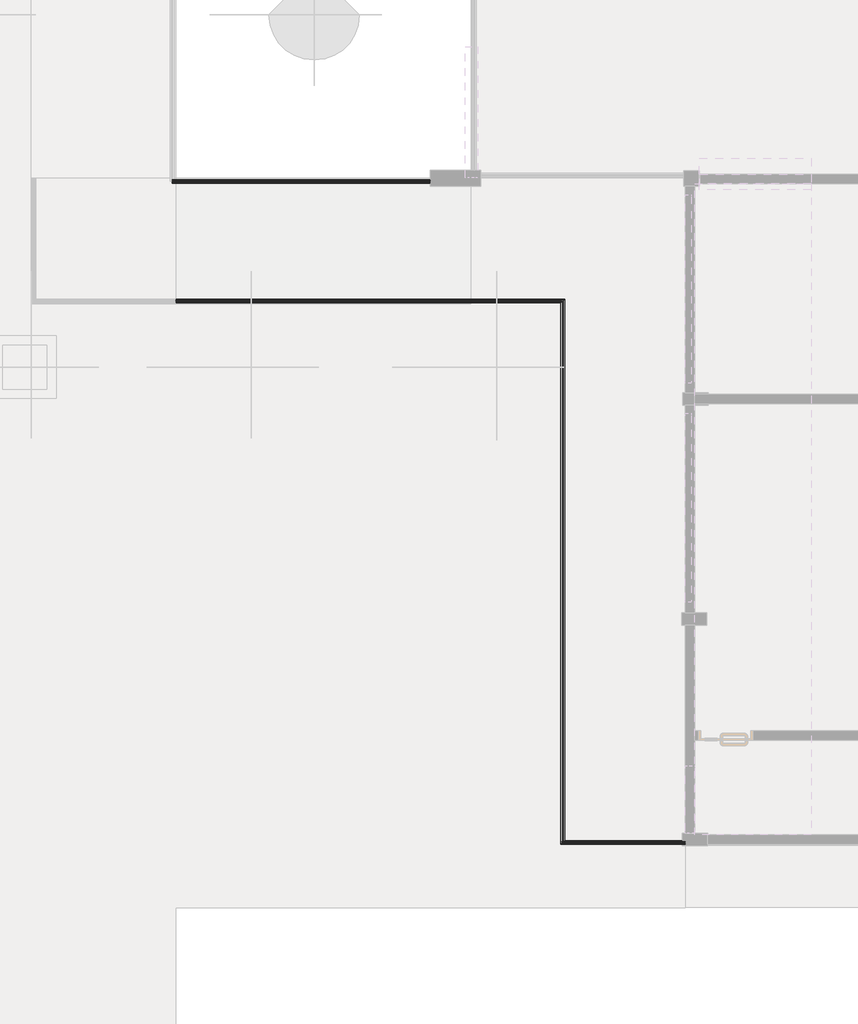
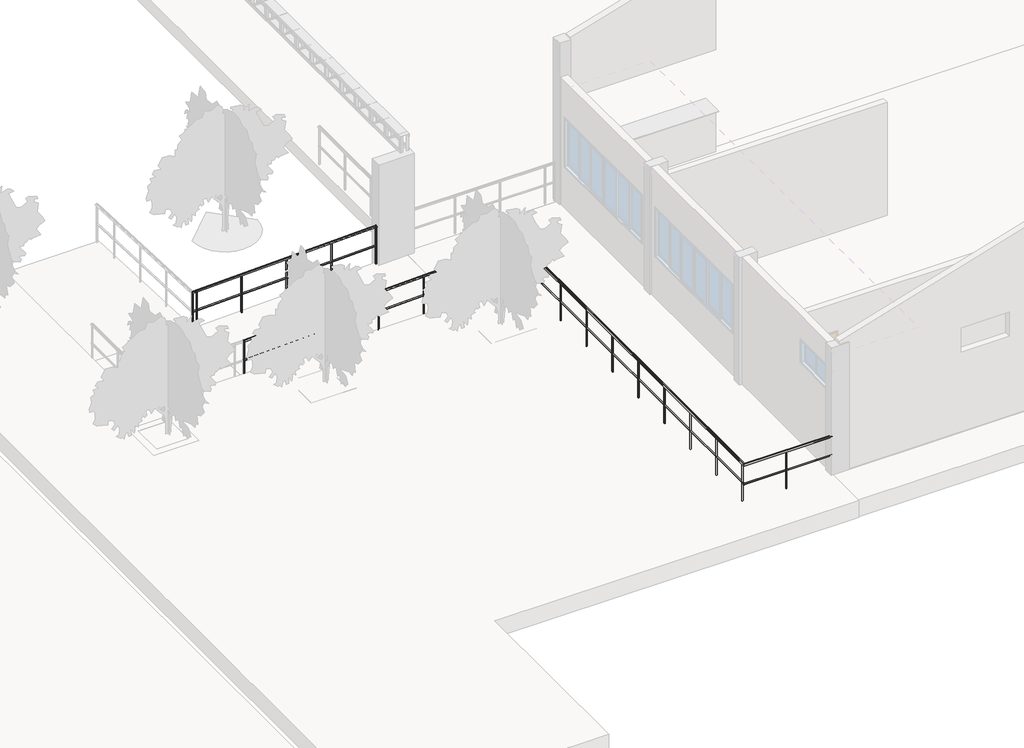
# One storey, part 8 of 12: 3 railings.
"""IFC4 building model written with IfcOpenShell, lengths in millimetres."""

from ifc_helpers import new_model, si_unit, point, frame, frame_2d, origin, place, context, project, spatial, circle_curve, ellipse_curve, trimmed, segment, composite_curve, outline, extrude, element, save
from ifc_brep_helpers import plane_surface, cylinder_surface, advanced_brep

model = new_model("IFC4")

# Units and contexts
model_context = context("Model", 3, world=origin())
ifc_project = project(units=[si_unit("LENGTHUNIT", "METRE", prefix="MILLI")], contexts=[model_context])

# Site, building, storey
site = spatial("IfcSite", under=ifc_project)
building = spatial("IfcBuilding", under=site)
storey = spatial("IfcBuildingStorey", under=building, Name="Nível 1", Elevation=0.0)

# Railings
placement = place(None, origin())
element("IfcRailing", 1, ObjectType="900 mm Tubulação", at=placement, inside=storey, context=model_context, shape_type="AdvancedBrep", body=[
    advanced_brep(
    [(-22898.5268603, 13911.1797638, 1029.989817), (-22898.5268603, 13881.1797638, 1029.989817), (-22898.5268603, 13851.1797638, 1029.989817), (-22898.5268603, 13871.1797638, 1050.0), (-22898.5268603, 13891.1797638, 1050.0), (-18198.5268603, 13911.1797638, 1179.989817), (-18198.5268603, 13891.1797638, 1200.0), (-18198.5268603, 13871.1797638, 1200.0), (-18198.5268603, 13851.1797638, 1179.989817), (-18198.5268603, 13881.1797638, 1179.989817)],
    [
        (0, 1),
        (1, 2),
        (2, 3, ellipse_curve(frame((-22898.5268603, 13871.1797638, 1029.989817), z_axis=(-1.0, 0.0, 0.0), x_axis=(0.0, 0.0, -1.0)), 20.010183, 20.0)),
        (3, 4),
        (4, 0, ellipse_curve(frame((-22898.5268603, 13891.1797638, 1029.989817), z_axis=(-1.0, 0.0, 0.0), x_axis=(0.0, 0.0, -1.0)), 20.010183, 20.0)),
        (5, 6, ellipse_curve(frame((-18198.5268603, 13891.1797638, 1179.989817), z_axis=(1.0, 0.0, 0.0), x_axis=(0.0, 0.0, -1.0)), 20.010183, 20.0)),
        (6, 7),
        (7, 8, ellipse_curve(frame((-18198.5268603, 13871.1797638, 1179.989817), z_axis=(1.0, 0.0, 0.0), x_axis=(0.0, 0.0, -1.0)), 20.010183, 20.0)),
        (8, 9),
        (9, 5),
        (0, 5),
        (9, 1),
        (8, 2),
        (7, 3),
        (6, 4),
    ],
    [
        plane_surface(frame((-22898.5268603, 13881.1797638, 1050.0), z_axis=(-1.0, 0.0, 0.0), x_axis=(0.0, 1.0, 0.0))),
        plane_surface(frame((-18198.5268603, 13881.1797638, 1200.0), z_axis=(1.0, 0.0, 0.0), x_axis=(0.0, 1.0, 0.0))),
        plane_surface(frame((-22898.5268603, 13911.1797638, 1029.989817), z_axis=(0.03189865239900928, 0.0, -0.9994911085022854), x_axis=(0.9994911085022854, 0.0, 0.03189865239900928))),
        plane_surface(frame((-22898.5268603, 13881.1797638, 1029.989817), z_axis=(0.03189865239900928, 0.0, -0.9994911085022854), x_axis=(0.9994911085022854, 0.0, 0.03189865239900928))),
        cylinder_surface(frame((-22897.8888872, 13871.1797638, 1030.0101778), z_axis=(-0.9994911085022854, 0.0, -0.0318986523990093), x_axis=(0.0, 1.0, 0.0)), 20.0),
        plane_surface(frame((-22898.5268603, 13871.1797638, 1050.0), z_axis=(-0.03189865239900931, 0.0, 0.9994911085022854), x_axis=(0.9994911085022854, 0.0, 0.03189865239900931))),
        cylinder_surface(frame((-22897.8888872, 13891.1797638, 1030.0101778), z_axis=(-0.9994911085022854, 0.0, -0.0318986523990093), x_axis=(0.0, 1.0, 0.0)), 20.0),
    ],
    [
        (0, [[1, 2, 3, 4, 5]]),
        (1, [[6, 7, 8, 9, 10]]),
        (2, [[-1, 11, -10, 12]]),
        (3, [[-2, -12, -9, 13]]),
        (4, [[-3, -13, -8, 14]]),
        (5, [[-4, -14, -7, 15]]),
        (6, [[-5, -15, -6, -11]]),
    ],
),
    advanced_brep(
    [(-22898.5268603, 13896.1797638, 1034.9923627), (-22898.5268603, 13866.1797638, 1034.9923627), (-18198.5268603, 13896.1797638, 1184.9923627), (-18198.5268603, 13866.1797638, 1184.9923627)],
    [
        (0, 1, ellipse_curve(frame((-22898.5268603, 13881.1797638, 1034.9923627), z_axis=(-1.0, 0.0, 0.0), x_axis=(0.0, 0.0, -1.0)), 15.0076373, 15.0)),
        (1, 0, ellipse_curve(frame((-22898.5268603, 13881.1797638, 1034.9923627), z_axis=(-1.0, 0.0, 0.0), x_axis=(0.0, 0.0, -1.0)), 15.0076373, 15.0)),
        (2, 3, ellipse_curve(frame((-18198.5268603, 13881.1797638, 1184.9923627), z_axis=(1.0, 0.0, 0.0), x_axis=(0.0, 0.0, -1.0)), 15.0076373, 15.0)),
        (3, 2, ellipse_curve(frame((-18198.5268603, 13881.1797638, 1184.9923627), z_axis=(1.0, 0.0, 0.0), x_axis=(0.0, 0.0, -1.0)), 15.0076373, 15.0)),
        (0, 2),
        (3, 1),
    ],
    [
        plane_surface(frame((-22898.5268603, 13881.1797638, 1050.0), z_axis=(-1.0, 0.0, 0.0), x_axis=(0.0, 1.0, 0.0))),
        plane_surface(frame((-18198.5268603, 13881.1797638, 1200.0), z_axis=(1.0, 0.0, 0.0), x_axis=(0.0, 1.0, 0.0))),
        cylinder_surface(frame((-22898.0483805, 13881.1797638, 1035.0076334), z_axis=(-0.9994911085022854, 0.0, -0.0318986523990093), x_axis=(0.0, -1.0, 0.0)), 15.0),
    ],
    [
        (0, [[1, 2]]),
        (1, [[3, 4]]),
        (2, [[-1, 5, -4, 6]]),
        (2, [[-2, -6, -3, -5]]),
    ],
),
    advanced_brep(
    [(-22898.5268603, 13896.1797638, 584.9923627), (-22898.5268603, 13866.1797638, 584.9923627), (-18198.5268603, 13896.1797638, 734.9923627), (-18198.5268603, 13866.1797638, 734.9923627)],
    [
        (0, 1, ellipse_curve(frame((-22898.5268603, 13881.1797638, 584.9923627), z_axis=(-1.0, 0.0, 0.0), x_axis=(0.0, 0.0, -1.0)), 15.0076373, 15.0)),
        (1, 0, ellipse_curve(frame((-22898.5268603, 13881.1797638, 584.9923627), z_axis=(-1.0, 0.0, 0.0), x_axis=(0.0, 0.0, -1.0)), 15.0076373, 15.0)),
        (2, 3, ellipse_curve(frame((-18198.5268603, 13881.1797638, 734.9923627), z_axis=(1.0, 0.0, 0.0), x_axis=(0.0, 0.0, -1.0)), 15.0076373, 15.0)),
        (3, 2, ellipse_curve(frame((-18198.5268603, 13881.1797638, 734.9923627), z_axis=(1.0, 0.0, 0.0), x_axis=(0.0, 0.0, -1.0)), 15.0076373, 15.0)),
        (0, 2),
        (3, 1),
    ],
    [
        plane_surface(frame((-22898.5268603, 13881.1797638, 600.0), z_axis=(-1.0, 0.0, 0.0), x_axis=(0.0, 1.0, 0.0))),
        plane_surface(frame((-18198.5268603, 13881.1797638, 750.0), z_axis=(1.0, 0.0, 0.0), x_axis=(0.0, 1.0, 0.0))),
        cylinder_surface(frame((-22898.0483805, 13881.1797638, 585.0076334), z_axis=(-0.9994911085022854, 0.0, -0.0318986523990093), x_axis=(0.0, -1.0, 0.0)), 15.0),
    ],
    [
        (0, [[1, 2]]),
        (1, [[3, 4]]),
        (2, [[-1, 5, -4, 6]]),
        (2, [[-2, -6, -3, -5]]),
    ],
),
    advanced_brep(
    [(-18898.5268603, 13868.6797638, 1147.6595745), (-18898.5268603, 13868.6797638, 277.6595745), (-18898.5268603, 13893.6797638, 277.6595745), (-18898.5268603, 13893.6797638, 1147.6595745)],
    [
        (0, 1),
        (1, 2, ellipse_curve(frame((-18898.5268603, 13881.1797638, 277.6595745), z_axis=(-0.03189865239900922, 0.0, 0.9994911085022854), x_axis=(0.9994911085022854, 0.0, 0.031898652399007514)), 12.5063644, 12.5)),
        (2, 3),
        (3, 0, ellipse_curve(frame((-18898.5268603, 13881.1797638, 1147.6595745), z_axis=(0.03189865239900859, 0.0, -0.9994911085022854), x_axis=(0.9994911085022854, 0.0, 0.03189865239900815)), 12.5063644, 12.5)),
        (0, 3, ellipse_curve(frame((-18898.5268603, 13881.1797638, 1147.6595745), z_axis=(0.03189865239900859, 0.0, -0.9994911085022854), x_axis=(0.9994911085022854, 0.0, 0.03189865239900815)), 12.5063644, 12.5)),
        (2, 1, ellipse_curve(frame((-18898.5268603, 13881.1797638, 277.6595745), z_axis=(-0.03189865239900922, 0.0, 0.9994911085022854), x_axis=(0.9994911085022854, 0.0, 0.031898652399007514)), 12.5063644, 12.5)),
    ],
    [
        cylinder_surface(frame((-18898.5268603, 13881.1797638, 177.6595745), z_axis=(0.0, 0.0, 1.0), x_axis=(0.0, 1.0, 0.0)), 12.5),
        plane_surface(frame((-18873.5268603, 13906.1797638, 1148.4574468), z_axis=(-0.03189865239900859, 0.0, 0.9994911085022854), x_axis=(0.0, -1.0, 0.0))),
        plane_surface(frame((-18923.5268603, 13906.1797638, 276.8617021), z_axis=(0.03189865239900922, 0.0, -0.9994911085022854), x_axis=(0.0, -1.0, 0.0))),
    ],
    [
        (0, [[1, 2, 3, 4]]),
        (0, [[-1, 5, -3, 6]]),
        (1, [[-4, -5]]),
        (2, [[-2, -6]]),
    ],
),
    advanced_brep(
    [(-19898.5268603, 13868.6797638, 1115.7446809), (-19898.5268603, 13868.6797638, 245.7446809), (-19898.5268603, 13893.6797638, 245.7446809), (-19898.5268603, 13893.6797638, 1115.7446809)],
    [
        (0, 1),
        (1, 2, ellipse_curve(frame((-19898.5268603, 13881.1797638, 245.7446809), z_axis=(-0.03189865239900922, 0.0, 0.9994911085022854), x_axis=(0.9994911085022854, 0.0, 0.031898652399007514)), 12.5063644, 12.5)),
        (2, 3),
        (3, 0, ellipse_curve(frame((-19898.5268603, 13881.1797638, 1115.7446809), z_axis=(0.03189865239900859, 0.0, -0.9994911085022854), x_axis=(0.9994911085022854, 0.0, 0.03189865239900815)), 12.5063644, 12.5)),
        (0, 3, ellipse_curve(frame((-19898.5268603, 13881.1797638, 1115.7446809), z_axis=(0.03189865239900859, 0.0, -0.9994911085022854), x_axis=(0.9994911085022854, 0.0, 0.03189865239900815)), 12.5063644, 12.5)),
        (2, 1, ellipse_curve(frame((-19898.5268603, 13881.1797638, 245.7446809), z_axis=(-0.03189865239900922, 0.0, 0.9994911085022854), x_axis=(0.9994911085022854, 0.0, 0.031898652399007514)), 12.5063644, 12.5)),
    ],
    [
        cylinder_surface(frame((-19898.5268603, 13881.1797638, 145.7446809), z_axis=(0.0, 0.0, 1.0), x_axis=(0.0, 1.0, 0.0)), 12.5),
        plane_surface(frame((-19873.5268603, 13906.1797638, 1116.5425532), z_axis=(-0.03189865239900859, 0.0, 0.9994911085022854), x_axis=(0.0, -1.0, 0.0))),
        plane_surface(frame((-19923.5268603, 13906.1797638, 244.9468085), z_axis=(0.03189865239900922, 0.0, -0.9994911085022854), x_axis=(0.0, -1.0, 0.0))),
    ],
    [
        (0, [[1, 2, 3, 4]]),
        (0, [[-1, 5, -3, 6]]),
        (1, [[-4, -5]]),
        (2, [[-2, -6]]),
    ],
),
    advanced_brep(
    [(-20898.5268603, 13868.6797638, 1083.8297872), (-20898.5268603, 13868.6797638, 213.8297872), (-20898.5268603, 13893.6797638, 213.8297872), (-20898.5268603, 13893.6797638, 1083.8297872)],
    [
        (0, 1),
        (1, 2, ellipse_curve(frame((-20898.5268603, 13881.1797638, 213.8297872), z_axis=(-0.03189865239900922, 0.0, 0.9994911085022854), x_axis=(0.9994911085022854, 0.0, 0.031898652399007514)), 12.5063644, 12.5)),
        (2, 3),
        (3, 0, ellipse_curve(frame((-20898.5268603, 13881.1797638, 1083.8297872), z_axis=(0.03189865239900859, 0.0, -0.9994911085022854), x_axis=(0.9994911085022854, 0.0, 0.03189865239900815)), 12.5063644, 12.5)),
        (0, 3, ellipse_curve(frame((-20898.5268603, 13881.1797638, 1083.8297872), z_axis=(0.03189865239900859, 0.0, -0.9994911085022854), x_axis=(0.9994911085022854, 0.0, 0.03189865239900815)), 12.5063644, 12.5)),
        (2, 1, ellipse_curve(frame((-20898.5268603, 13881.1797638, 213.8297872), z_axis=(-0.03189865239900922, 0.0, 0.9994911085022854), x_axis=(0.9994911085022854, 0.0, 0.031898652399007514)), 12.5063644, 12.5)),
    ],
    [
        cylinder_surface(frame((-20898.5268603, 13881.1797638, 113.8297872), z_axis=(0.0, 0.0, 1.0), x_axis=(0.0, 1.0, 0.0)), 12.5),
        plane_surface(frame((-20873.5268603, 13906.1797638, 1084.6276596), z_axis=(-0.03189865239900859, 0.0, 0.9994911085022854), x_axis=(0.0, -1.0, 0.0))),
        plane_surface(frame((-20923.5268603, 13906.1797638, 213.0319149), z_axis=(0.03189865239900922, 0.0, -0.9994911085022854), x_axis=(0.0, -1.0, 0.0))),
    ],
    [
        (0, [[1, 2, 3, 4]]),
        (0, [[-1, 5, -3, 6]]),
        (1, [[-4, -5]]),
        (2, [[-2, -6]]),
    ],
),
    advanced_brep(
    [(-21898.5268603, 13868.6797638, 1051.9148936), (-21898.5268603, 13868.6797638, 181.9148936), (-21898.5268603, 13893.6797638, 181.9148936), (-21898.5268603, 13893.6797638, 1051.9148936)],
    [
        (0, 1),
        (1, 2, ellipse_curve(frame((-21898.5268603, 13881.1797638, 181.9148936), z_axis=(-0.03189865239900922, 0.0, 0.9994911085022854), x_axis=(0.9994911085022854, 0.0, 0.031898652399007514)), 12.5063644, 12.5)),
        (2, 3),
        (3, 0, ellipse_curve(frame((-21898.5268603, 13881.1797638, 1051.9148936), z_axis=(0.03189865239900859, 0.0, -0.9994911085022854), x_axis=(0.9994911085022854, 0.0, 0.03189865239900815)), 12.5063644, 12.5)),
        (0, 3, ellipse_curve(frame((-21898.5268603, 13881.1797638, 1051.9148936), z_axis=(0.03189865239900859, 0.0, -0.9994911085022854), x_axis=(0.9994911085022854, 0.0, 0.03189865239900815)), 12.5063644, 12.5)),
        (2, 1, ellipse_curve(frame((-21898.5268603, 13881.1797638, 181.9148936), z_axis=(-0.03189865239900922, 0.0, 0.9994911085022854), x_axis=(0.9994911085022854, 0.0, 0.031898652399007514)), 12.5063644, 12.5)),
    ],
    [
        cylinder_surface(frame((-21898.5268603, 13881.1797638, 81.9148936), z_axis=(0.0, 0.0, 1.0), x_axis=(0.0, 1.0, 0.0)), 12.5),
        plane_surface(frame((-21873.5268603, 13906.1797638, 1052.712766), z_axis=(-0.03189865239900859, 0.0, 0.9994911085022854), x_axis=(0.0, -1.0, 0.0))),
        plane_surface(frame((-21923.5268603, 13906.1797638, 181.1170213), z_axis=(0.03189865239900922, 0.0, -0.9994911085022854), x_axis=(0.0, -1.0, 0.0))),
    ],
    [
        (0, [[1, 2, 3, 4]]),
        (0, [[-1, 5, -3, 6]]),
        (1, [[-4, -5]]),
        (2, [[-2, -6]]),
    ],
),
    advanced_brep(
    [(-18211.0268603, 13868.6797638, 1179.5908808), (-18211.0268603, 13868.6797638, 299.6010638), (-18211.0268603, 13893.6797638, 299.6010638), (-18211.0268603, 13893.6797638, 1179.5908808)],
    [
        (0, 1),
        (1, 2, ellipse_curve(frame((-18211.0268603, 13881.1797638, 299.6010638), z_axis=(-0.031898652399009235, 0.0, 0.9994911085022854), x_axis=(0.9994911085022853, 0.0, 0.0318986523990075)), 12.5063644, 12.5)),
        (2, 3),
        (3, 0, ellipse_curve(frame((-18211.0268603, 13881.1797638, 1179.5908808), z_axis=(0.03189865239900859, 0.0, -0.9994911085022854), x_axis=(0.9994911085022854, 0.0, 0.03189865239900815)), 12.5063644, 12.5)),
        (0, 3, ellipse_curve(frame((-18211.0268603, 13881.1797638, 1179.5908808), z_axis=(0.03189865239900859, 0.0, -0.9994911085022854), x_axis=(0.9994911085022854, 0.0, 0.03189865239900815)), 12.5063644, 12.5)),
        (2, 1, ellipse_curve(frame((-18211.0268603, 13881.1797638, 299.6010638), z_axis=(-0.031898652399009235, 0.0, 0.9994911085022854), x_axis=(0.9994911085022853, 0.0, 0.0318986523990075)), 12.5063644, 12.5)),
    ],
    [
        cylinder_surface(frame((-18211.0268603, 13881.1797638, 199.6010638), z_axis=(0.0, 0.0, 1.0), x_axis=(0.0, 1.0, 0.0)), 12.5),
        plane_surface(frame((-18186.0268603, 13906.1797638, 1180.3887532), z_axis=(-0.03189865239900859, 0.0, 0.9994911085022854), x_axis=(0.0, -1.0, 0.0))),
        plane_surface(frame((-18236.0268603, 13906.1797638, 298.8031915), z_axis=(0.031898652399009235, 0.0, -0.9994911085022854), x_axis=(0.0, -1.0, 0.0))),
    ],
    [
        (0, [[1, 2, 3, 4]]),
        (0, [[-1, 5, -3, 6]]),
        (1, [[-4, -5]]),
        (2, [[-2, -6]]),
    ],
),
    advanced_brep(
    [(-22886.0268603, 13868.6797638, 1030.3887532), (-22886.0268603, 13868.6797638, 150.3989362), (-22886.0268603, 13893.6797638, 150.3989362), (-22886.0268603, 13893.6797638, 1030.3887532)],
    [
        (0, 1),
        (1, 2, ellipse_curve(frame((-22886.0268603, 13881.1797638, 150.3989362), z_axis=(-0.031898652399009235, 0.0, 0.9994911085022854), x_axis=(0.9994911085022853, 0.0, 0.0318986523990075)), 12.5063644, 12.5)),
        (2, 3),
        (3, 0, ellipse_curve(frame((-22886.0268603, 13881.1797638, 1030.3887532), z_axis=(0.03189865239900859, 0.0, -0.9994911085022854), x_axis=(0.9994911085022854, 0.0, 0.03189865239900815)), 12.5063644, 12.5)),
        (0, 3, ellipse_curve(frame((-22886.0268603, 13881.1797638, 1030.3887532), z_axis=(0.03189865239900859, 0.0, -0.9994911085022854), x_axis=(0.9994911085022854, 0.0, 0.03189865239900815)), 12.5063644, 12.5)),
        (2, 1, ellipse_curve(frame((-22886.0268603, 13881.1797638, 150.3989362), z_axis=(-0.031898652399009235, 0.0, 0.9994911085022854), x_axis=(0.9994911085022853, 0.0, 0.0318986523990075)), 12.5063644, 12.5)),
    ],
    [
        cylinder_surface(frame((-22886.0268603, 13881.1797638, 50.3989362), z_axis=(0.0, 0.0, 1.0), x_axis=(0.0, 1.0, 0.0)), 12.5),
        plane_surface(frame((-22861.0268603, 13906.1797638, 1031.1866255), z_axis=(-0.03189865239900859, 0.0, 0.9994911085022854), x_axis=(0.0, -1.0, 0.0))),
        plane_surface(frame((-22911.0268603, 13906.1797638, 149.6010638), z_axis=(0.031898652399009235, 0.0, -0.9994911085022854), x_axis=(0.0, -1.0, 0.0))),
    ],
    [
        (0, [[1, 2, 3, 4]]),
        (0, [[-1, 5, -3, 6]]),
        (1, [[-4, -5]]),
        (2, [[-2, -6]]),
    ],
),
])
element("IfcRailing", 2, ObjectType="900 mm Tubulação", at=placement, inside=storey, context=model_context, shape_type="SolidModel", body=[
    advanced_brep(
    [(-18198.5268603, 13911.1797638, 1180.0), (-18198.5268603, 13881.1797638, 1180.0), (-18198.5268603, 13851.1797638, 1180.0), (-18198.5268603, 13871.1797638, 1200.0), (-18198.5268603, 13891.1797638, 1200.0), (-16713.5500443, 13911.1797638, 1180.0), (-16743.5500443, 13881.1797638, 1180.0), (-16773.5500443, 13851.1797638, 1180.0), (-16753.5500443, 13871.1797638, 1200.0), (-16733.5500443, 13891.1797638, 1200.0), (-16713.5500443, 5302.1410552, 1180.0), (-16743.5500443, 5272.1410552, 1180.0), (-16773.5500443, 5242.1410552, 1180.0), (-16753.5500443, 5262.1410552, 1200.0), (-16733.5500443, 5282.1410552, 1200.0), (-14793.4946316, 5302.1410552, 1180.0), (-14793.4946316, 5282.1410552, 1200.0), (-14793.4946316, 5262.1410552, 1200.0), (-14793.4946316, 5242.1410552, 1180.0), (-14793.4946316, 5272.1410552, 1180.0)],
    [
        (0, 1),
        (1, 2),
        (2, 3, circle_curve(frame((-18198.5268603, 13871.1797638, 1180.0), z_axis=(-1.0, 0.0, 0.0), x_axis=(0.0, 1.0, 0.0)), 20.0)),
        (3, 4),
        (4, 0, circle_curve(frame((-18198.5268603, 13891.1797638, 1180.0), z_axis=(-1.0, 0.0, 0.0), x_axis=(0.0, 1.0, 0.0)), 20.0)),
        (0, 5),
        (5, 6),
        (6, 1),
        (6, 7),
        (7, 2),
        (7, 8, ellipse_curve(frame((-16753.5500443, 13871.1797638, 1180.0), z_axis=(-0.7071067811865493, 0.7071067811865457, 0.0), x_axis=(-0.7071067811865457, -0.7071067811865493, 0.0)), 28.2842712, 20.0)),
        (8, 3),
        (8, 9),
        (9, 4),
        (9, 5, ellipse_curve(frame((-16733.5500443, 13891.1797638, 1180.0), z_axis=(-0.7071067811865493, 0.7071067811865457, 0.0), x_axis=(-0.7071067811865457, -0.7071067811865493, 0.0)), 28.2842712, 20.0)),
        (5, 10),
        (10, 11),
        (11, 6),
        (11, 12),
        (12, 7),
        (12, 13, ellipse_curve(frame((-16753.5500443, 5262.1410552, 1180.0), z_axis=(-0.7071067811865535, 0.7071067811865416, 0.0), x_axis=(0.7071067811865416, 0.7071067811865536, 0.0)), 28.2842712, 20.0)),
        (13, 8),
        (13, 14),
        (14, 9),
        (14, 10, ellipse_curve(frame((-16733.5500443, 5282.1410552, 1180.0), z_axis=(-0.7071067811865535, 0.7071067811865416, 0.0), x_axis=(0.7071067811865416, 0.7071067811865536, 0.0)), 28.2842712, 20.0)),
        (15, 16, circle_curve(frame((-14793.4946316, 5282.1410552, 1180.0), z_axis=(1.0, 0.0, 0.0), x_axis=(0.0, 1.0, 0.0)), 20.0)),
        (16, 17),
        (17, 18, circle_curve(frame((-14793.4946316, 5262.1410552, 1180.0), z_axis=(1.0, 0.0, 0.0), x_axis=(0.0, 1.0, 0.0)), 20.0)),
        (18, 19),
        (19, 15),
        (10, 15),
        (19, 11),
        (18, 12),
        (17, 13),
        (16, 14),
    ],
    [
        plane_surface(frame((-18198.5268603, 13881.1797638, 1200.0), z_axis=(-1.0, 0.0, 0.0), x_axis=(0.0, 1.0, 0.0))),
        plane_surface(frame((-18198.5268603, 13911.1797638, 1180.0), z_axis=(0.0, 0.0, -1.0), x_axis=(1.0, 0.0, 0.0))),
        plane_surface(frame((-18198.5268603, 13881.1797638, 1180.0), z_axis=(0.0, 0.0, -1.0), x_axis=(1.0, 0.0, 0.0))),
        cylinder_surface(frame((-18198.5268603, 13871.1797638, 1180.0), z_axis=(-1.0, 0.0, 0.0), x_axis=(0.0, 1.0, 0.0)), 20.0),
        plane_surface(frame((-18198.5268603, 13871.1797638, 1200.0), z_axis=(0.0, 0.0, 1.0), x_axis=(1.0, 0.0, 0.0))),
        cylinder_surface(frame((-18198.5268603, 13891.1797638, 1180.0), z_axis=(-1.0, 0.0, 0.0), x_axis=(0.0, 1.0, 0.0)), 20.0),
        plane_surface(frame((-16713.5500443, 13911.1797638, 1180.0), z_axis=(0.0, 0.0, -1.0), x_axis=(0.0, -1.0, 0.0))),
        plane_surface(frame((-16743.5500443, 13881.1797638, 1180.0), z_axis=(0.0, 0.0, -1.0), x_axis=(0.0, -1.0, 0.0))),
        cylinder_surface(frame((-16753.5500443, 13881.1797638, 1180.0), z_axis=(0.0, 1.0, 0.0), x_axis=(1.0, 0.0, 0.0)), 20.0),
        plane_surface(frame((-16753.5500443, 13871.1797638, 1200.0), z_axis=(0.0, 0.0, 1.0), x_axis=(0.0, -1.0, 0.0))),
        cylinder_surface(frame((-16733.5500443, 13881.1797638, 1180.0), z_axis=(0.0, 1.0, 0.0), x_axis=(1.0, 0.0, 0.0)), 20.0),
        plane_surface(frame((-14793.4946316, 5272.1410552, 1200.0), z_axis=(1.0, 0.0, 0.0), x_axis=(0.0, 1.0, 0.0))),
        plane_surface(frame((-16713.5500443, 5302.1410552, 1180.0), z_axis=(0.0, 0.0, -1.0), x_axis=(1.0, 0.0, 0.0))),
        plane_surface(frame((-16743.5500443, 5272.1410552, 1180.0), z_axis=(0.0, 0.0, -1.0), x_axis=(1.0, 0.0, 0.0))),
        cylinder_surface(frame((-16743.5500443, 5262.1410552, 1180.0), z_axis=(-1.0, 0.0, 0.0), x_axis=(0.0, 1.0, 0.0)), 20.0),
        plane_surface(frame((-16753.5500443, 5262.1410552, 1200.0), z_axis=(0.0, 0.0, 1.0), x_axis=(1.0, 0.0, 0.0))),
        cylinder_surface(frame((-16743.5500443, 5282.1410552, 1180.0), z_axis=(-1.0, 0.0, 0.0), x_axis=(0.0, 1.0, 0.0)), 20.0),
    ],
    [
        (0, [[1, 2, 3, 4, 5]]),
        (1, [[-1, 6, 7, 8]]),
        (2, [[-2, -8, 9, 10]]),
        (3, [[-3, -10, 11, 12]]),
        (4, [[-4, -12, 13, 14]]),
        (5, [[-5, -14, 15, -6]]),
        (6, [[-7, 16, 17, 18]]),
        (7, [[-9, -18, 19, 20]]),
        (8, [[-11, -20, 21, 22]]),
        (9, [[-13, -22, 23, 24]]),
        (10, [[-15, -24, 25, -16]]),
        (11, [[26, 27, 28, 29, 30]]),
        (12, [[-17, 31, -30, 32]]),
        (13, [[-19, -32, -29, 33]]),
        (14, [[-21, -33, -28, 34]]),
        (15, [[-23, -34, -27, 35]]),
        (16, [[-25, -35, -26, -31]]),
    ],
),
    extrude(outline(composite_curve([segment(trimmed(circle_curve(frame_2d((13881.1797638, 1185.0)), 15.0), [point((13896.1797638, 1185.0))], [point((13866.1797638, 1185.0))], False, "CARTESIAN"), True, "CONTINUOUS"), segment(trimmed(circle_curve(frame_2d((13881.1797638, 1185.0)), 15.0), [point((13866.1797638, 1185.0))], [point((13896.1797638, 1185.0))], False, "CARTESIAN"), True, "CONTINUOUS")], self_intersect=False)), frame((-18198.5268603, 0.0, 0.0), z_axis=(1.0, 0.0, 0.0), x_axis=(0.0, 1.0, 0.0)), (0.0, 0.0, 1.0), 1439.976816),
    extrude(outline(composite_curve([segment(trimmed(circle_curve(frame_2d((1185.0, -16743.5500443)), 15.0), [point((1185.0, -16728.5500443))], [point((1185.0, -16758.5500443))], False, "CARTESIAN"), True, "CONTINUOUS"), segment(trimmed(circle_curve(frame_2d((1185.0, -16743.5500443)), 15.0), [point((1185.0, -16758.5500443))], [point((1185.0, -16728.5500443))], False, "CARTESIAN"), True, "CONTINUOUS")], self_intersect=False)), frame((0.0, 5287.1410552, 0.0), z_axis=(0.0, 1.0, 0.0), x_axis=(0.0, 0.0, 1.0)), (0.0, 0.0, 1.0), 8609.0387085),
    extrude(outline(composite_curve([segment(trimmed(circle_curve(frame_2d((5272.1410552, 1185.0)), 15.0), [point((5287.1410552, 1185.0))], [point((5257.1410552, 1185.0))], False, "CARTESIAN"), True, "CONTINUOUS"), segment(trimmed(circle_curve(frame_2d((5272.1410552, 1185.0)), 15.0), [point((5257.1410552, 1185.0))], [point((5287.1410552, 1185.0))], False, "CARTESIAN"), True, "CONTINUOUS")], self_intersect=False)), frame((-16758.5500443, 0.0, 0.0), z_axis=(1.0, 0.0, 0.0), x_axis=(0.0, 1.0, 0.0)), (0.0, 0.0, 1.0), 1965.0554127),
    extrude(outline(composite_curve([segment(trimmed(circle_curve(frame_2d((13881.1797638, 735.0)), 15.0), [point((13896.1797638, 735.0))], [point((13866.1797638, 735.0))], False, "CARTESIAN"), True, "CONTINUOUS"), segment(trimmed(circle_curve(frame_2d((13881.1797638, 735.0)), 15.0), [point((13866.1797638, 735.0))], [point((13896.1797638, 735.0))], False, "CARTESIAN"), True, "CONTINUOUS")], self_intersect=False)), frame((-18198.5268603, 0.0, 0.0), z_axis=(1.0, 0.0, 0.0), x_axis=(0.0, 1.0, 0.0)), (0.0, 0.0, 1.0), 1439.976816),
    extrude(outline(composite_curve([segment(trimmed(circle_curve(frame_2d((735.0, -16743.5500443)), 15.0), [point((735.0, -16728.5500443))], [point((735.0, -16758.5500443))], False, "CARTESIAN"), True, "CONTINUOUS"), segment(trimmed(circle_curve(frame_2d((735.0, -16743.5500443)), 15.0), [point((735.0, -16758.5500443))], [point((735.0, -16728.5500443))], False, "CARTESIAN"), True, "CONTINUOUS")], self_intersect=False)), frame((0.0, 5287.1410552, 0.0), z_axis=(0.0, 1.0, 0.0), x_axis=(0.0, 0.0, 1.0)), (0.0, 0.0, 1.0), 8609.0387085),
    extrude(outline(composite_curve([segment(trimmed(circle_curve(frame_2d((5272.1410552, 735.0)), 15.0), [point((5287.1410552, 735.0))], [point((5257.1410552, 735.0))], False, "CARTESIAN"), True, "CONTINUOUS"), segment(trimmed(circle_curve(frame_2d((5272.1410552, 735.0)), 15.0), [point((5257.1410552, 735.0))], [point((5287.1410552, 735.0))], False, "CARTESIAN"), True, "CONTINUOUS")], self_intersect=False)), frame((-16758.5500443, 0.0, 0.0), z_axis=(1.0, 0.0, 0.0), x_axis=(0.0, 1.0, 0.0)), (0.0, 0.0, 1.0), 1965.0554127),
    extrude(outline(composite_curve([segment(trimmed(circle_curve(frame_2d((-14807.5655688, 5272.1410552)), 12.5), [point((-14807.5655688, 5284.6410552))], [point((-14807.5655688, 5259.6410552))], False, "CARTESIAN"), True, "CONTINUOUS"), segment(trimmed(circle_curve(frame_2d((-14807.5655688, 5272.1410552)), 12.5), [point((-14807.5655688, 5259.6410552))], [point((-14807.5655688, 5284.6410552))], False, "CARTESIAN"), True, "CONTINUOUS")], self_intersect=False)), frame((0.0, 0.0, 300.0), z_axis=(0.0, 0.0, 1.0), x_axis=(1.0, 0.0, 0.0)), (0.0, 0.0, 1.0), 870.0),
    extrude(outline(composite_curve([segment(trimmed(circle_curve(frame_2d((-15807.5655688, 5272.1410552)), 12.5), [point((-15807.5655688, 5284.6410552))], [point((-15807.5655688, 5259.6410552))], False, "CARTESIAN"), True, "CONTINUOUS"), segment(trimmed(circle_curve(frame_2d((-15807.5655688, 5272.1410552)), 12.5), [point((-15807.5655688, 5259.6410552))], [point((-15807.5655688, 5284.6410552))], False, "CARTESIAN"), True, "CONTINUOUS")], self_intersect=False)), frame((0.0, 0.0, 300.0), z_axis=(0.0, 0.0, 1.0), x_axis=(1.0, 0.0, 0.0)), (0.0, 0.0, 1.0), 870.0),
    extrude(outline(composite_curve([segment(trimmed(circle_curve(frame_2d((-16743.5500443, 5336.1565797)), 12.5), [point((-16731.0500443, 5336.1565797))], [point((-16756.0500443, 5336.1565797))], False, "CARTESIAN"), True, "CONTINUOUS"), segment(trimmed(circle_curve(frame_2d((-16743.5500443, 5336.1565797)), 12.5), [point((-16756.0500443, 5336.1565797))], [point((-16731.0500443, 5336.1565797))], False, "CARTESIAN"), True, "CONTINUOUS")], self_intersect=False)), frame((0.0, 0.0, 300.0), z_axis=(0.0, 0.0, 1.0), x_axis=(1.0, 0.0, 0.0)), (0.0, 0.0, 1.0), 870.0),
    extrude(outline(composite_curve([segment(trimmed(circle_curve(frame_2d((-16743.5500443, 6336.1565797)), 12.5), [point((-16731.0500443, 6336.1565797))], [point((-16756.0500443, 6336.1565797))], False, "CARTESIAN"), True, "CONTINUOUS"), segment(trimmed(circle_curve(frame_2d((-16743.5500443, 6336.1565797)), 12.5), [point((-16756.0500443, 6336.1565797))], [point((-16731.0500443, 6336.1565797))], False, "CARTESIAN"), True, "CONTINUOUS")], self_intersect=False)), frame((0.0, 0.0, 300.0), z_axis=(0.0, 0.0, 1.0), x_axis=(1.0, 0.0, 0.0)), (0.0, 0.0, 1.0), 870.0),
    extrude(outline(composite_curve([segment(trimmed(circle_curve(frame_2d((-16743.5500443, 7336.1565797)), 12.5), [point((-16731.0500443, 7336.1565797))], [point((-16756.0500443, 7336.1565797))], False, "CARTESIAN"), True, "CONTINUOUS"), segment(trimmed(circle_curve(frame_2d((-16743.5500443, 7336.1565797)), 12.5), [point((-16756.0500443, 7336.1565797))], [point((-16731.0500443, 7336.1565797))], False, "CARTESIAN"), True, "CONTINUOUS")], self_intersect=False)), frame((0.0, 0.0, 300.0), z_axis=(0.0, 0.0, 1.0), x_axis=(1.0, 0.0, 0.0)), (0.0, 0.0, 1.0), 870.0),
    extrude(outline(composite_curve([segment(trimmed(circle_curve(frame_2d((-16743.5500443, 8336.1565797)), 12.5), [point((-16731.0500443, 8336.1565797))], [point((-16756.0500443, 8336.1565797))], False, "CARTESIAN"), True, "CONTINUOUS"), segment(trimmed(circle_curve(frame_2d((-16743.5500443, 8336.1565797)), 12.5), [point((-16756.0500443, 8336.1565797))], [point((-16731.0500443, 8336.1565797))], False, "CARTESIAN"), True, "CONTINUOUS")], self_intersect=False)), frame((0.0, 0.0, 300.0), z_axis=(0.0, 0.0, 1.0), x_axis=(1.0, 0.0, 0.0)), (0.0, 0.0, 1.0), 870.0),
    extrude(outline(composite_curve([segment(trimmed(circle_curve(frame_2d((-16743.5500443, 9336.1565797)), 12.5), [point((-16731.0500443, 9336.1565797))], [point((-16756.0500443, 9336.1565797))], False, "CARTESIAN"), True, "CONTINUOUS"), segment(trimmed(circle_curve(frame_2d((-16743.5500443, 9336.1565797)), 12.5), [point((-16756.0500443, 9336.1565797))], [point((-16731.0500443, 9336.1565797))], False, "CARTESIAN"), True, "CONTINUOUS")], self_intersect=False)), frame((0.0, 0.0, 300.0), z_axis=(0.0, 0.0, 1.0), x_axis=(1.0, 0.0, 0.0)), (0.0, 0.0, 1.0), 870.0),
    extrude(outline(composite_curve([segment(trimmed(circle_curve(frame_2d((-16743.5500443, 10336.1565797)), 12.5), [point((-16731.0500443, 10336.1565797))], [point((-16756.0500443, 10336.1565797))], False, "CARTESIAN"), True, "CONTINUOUS"), segment(trimmed(circle_curve(frame_2d((-16743.5500443, 10336.1565797)), 12.5), [point((-16756.0500443, 10336.1565797))], [point((-16731.0500443, 10336.1565797))], False, "CARTESIAN"), True, "CONTINUOUS")], self_intersect=False)), frame((0.0, 0.0, 300.0), z_axis=(0.0, 0.0, 1.0), x_axis=(1.0, 0.0, 0.0)), (0.0, 0.0, 1.0), 870.0),
    extrude(outline(composite_curve([segment(trimmed(circle_curve(frame_2d((-16743.5500443, 11336.1565797)), 12.5), [point((-16731.0500443, 11336.1565797))], [point((-16756.0500443, 11336.1565797))], False, "CARTESIAN"), True, "CONTINUOUS"), segment(trimmed(circle_curve(frame_2d((-16743.5500443, 11336.1565797)), 12.5), [point((-16756.0500443, 11336.1565797))], [point((-16731.0500443, 11336.1565797))], False, "CARTESIAN"), True, "CONTINUOUS")], self_intersect=False)), frame((0.0, 0.0, 300.0), z_axis=(0.0, 0.0, 1.0), x_axis=(1.0, 0.0, 0.0)), (0.0, 0.0, 1.0), 870.0),
    extrude(outline(composite_curve([segment(trimmed(circle_curve(frame_2d((-16743.5500443, 12336.1565797)), 12.5), [point((-16731.0500443, 12336.1565797))], [point((-16756.0500443, 12336.1565797))], False, "CARTESIAN"), True, "CONTINUOUS"), segment(trimmed(circle_curve(frame_2d((-16743.5500443, 12336.1565797)), 12.5), [point((-16756.0500443, 12336.1565797))], [point((-16731.0500443, 12336.1565797))], False, "CARTESIAN"), True, "CONTINUOUS")], self_intersect=False)), frame((0.0, 0.0, 300.0), z_axis=(0.0, 0.0, 1.0), x_axis=(1.0, 0.0, 0.0)), (0.0, 0.0, 1.0), 870.0),
    extrude(outline(composite_curve([segment(trimmed(circle_curve(frame_2d((-16743.5500443, 13336.1565797)), 12.5), [point((-16731.0500443, 13336.1565797))], [point((-16756.0500443, 13336.1565797))], False, "CARTESIAN"), True, "CONTINUOUS"), segment(trimmed(circle_curve(frame_2d((-16743.5500443, 13336.1565797)), 12.5), [point((-16756.0500443, 13336.1565797))], [point((-16731.0500443, 13336.1565797))], False, "CARTESIAN"), True, "CONTINUOUS")], self_intersect=False)), frame((0.0, 0.0, 300.0), z_axis=(0.0, 0.0, 1.0), x_axis=(1.0, 0.0, 0.0)), (0.0, 0.0, 1.0), 870.0),
    extrude(outline(composite_curve([segment(trimmed(circle_curve(frame_2d((-17198.5268603, 13881.1797638)), 12.5), [point((-17198.5268603, 13893.6797638))], [point((-17198.5268603, 13868.6797638))], False, "CARTESIAN"), True, "CONTINUOUS"), segment(trimmed(circle_curve(frame_2d((-17198.5268603, 13881.1797638)), 12.5), [point((-17198.5268603, 13868.6797638))], [point((-17198.5268603, 13893.6797638))], False, "CARTESIAN"), True, "CONTINUOUS")], self_intersect=False)), frame((0.0, 0.0, 300.0), z_axis=(0.0, 0.0, 1.0), x_axis=(1.0, 0.0, 0.0)), (0.0, 0.0, 1.0), 870.0),
    extrude(outline(composite_curve([segment(trimmed(circle_curve(frame_2d((-14805.9946316, 5272.1410552)), 12.5), [point((-14805.9946316, 5284.6410552))], [point((-14805.9946316, 5259.6410552))], False, "CARTESIAN"), True, "CONTINUOUS"), segment(trimmed(circle_curve(frame_2d((-14805.9946316, 5272.1410552)), 12.5), [point((-14805.9946316, 5259.6410552))], [point((-14805.9946316, 5284.6410552))], False, "CARTESIAN"), True, "CONTINUOUS")], self_intersect=False)), frame((0.0, 0.0, 300.0), z_axis=(0.0, 0.0, 1.0), x_axis=(1.0, 0.0, 0.0)), (0.0, 0.0, 1.0), 880.0),
    extrude(outline(composite_curve([segment(trimmed(circle_curve(frame_2d((-18186.0268603, 13881.1797638)), 12.5), [point((-18186.0268603, 13893.6797638))], [point((-18186.0268603, 13868.6797638))], False, "CARTESIAN"), True, "CONTINUOUS"), segment(trimmed(circle_curve(frame_2d((-18186.0268603, 13881.1797638)), 12.5), [point((-18186.0268603, 13868.6797638))], [point((-18186.0268603, 13893.6797638))], False, "CARTESIAN"), True, "CONTINUOUS")], self_intersect=False)), frame((0.0, 0.0, 300.0), z_axis=(0.0, 0.0, 1.0), x_axis=(1.0, 0.0, 0.0)), (0.0, 0.0, 1.0), 880.0),
])
element("IfcRailing", 3, ObjectType="900 mm Tubulação", at=placement, inside=storey, context=model_context, shape_type="AdvancedBrep", body=[
    advanced_brep(
    [(-18848.5268603, 15751.1862478, 1159.2451361), (-18848.5268603, 15781.1862478, 1159.2451361), (-18848.5268603, 15811.1862478, 1159.2451361), (-18848.5268603, 15791.1862478, 1179.2553191), (-18848.5268603, 15771.1862478, 1179.2553191), (-22948.5268603, 15751.1862478, 1028.3940723), (-22948.5268603, 15771.1862478, 1048.4042553), (-22948.5268603, 15791.1862478, 1048.4042553), (-22948.5268603, 15811.1862478, 1028.3940723), (-22948.5268603, 15781.1862478, 1028.3940723)],
    [
        (0, 1),
        (1, 2),
        (2, 3, ellipse_curve(frame((-18848.5268603, 15791.1862478, 1159.2451361), z_axis=(1.0, 0.0, 0.0), x_axis=(0.0, 0.0, 1.0)), 20.010183, 20.0)),
        (3, 4),
        (4, 0, ellipse_curve(frame((-18848.5268603, 15771.1862478, 1159.2451361), z_axis=(1.0, 0.0, 0.0), x_axis=(0.0, 0.0, 1.0)), 20.010183, 20.0)),
        (5, 6, ellipse_curve(frame((-22948.5268603, 15771.1862478, 1028.3940723), z_axis=(-1.0, 0.0, 0.0), x_axis=(0.0, 0.0, 1.0)), 20.010183, 20.0)),
        (6, 7),
        (7, 8, ellipse_curve(frame((-22948.5268603, 15791.1862478, 1028.3940723), z_axis=(-1.0, 0.0, 0.0), x_axis=(0.0, 0.0, 1.0)), 20.010183, 20.0)),
        (8, 9),
        (9, 5),
        (0, 5),
        (9, 1),
        (8, 2),
        (7, 3),
        (6, 4),
    ],
    [
        plane_surface(frame((-18848.5268603, 15781.1862478, 1179.2553191), z_axis=(1.0, 0.0, 0.0), x_axis=(0.0, -1.0, 0.0))),
        plane_surface(frame((-22948.5268603, 15781.1862478, 1048.4042553), z_axis=(-1.0, 0.0, 0.0), x_axis=(0.0, -1.0, 0.0))),
        plane_surface(frame((-18848.5268603, 15751.1862478, 1159.2451361), z_axis=(0.0318986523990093, 0.0, -0.9994911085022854), x_axis=(-0.9994911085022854, 0.0, -0.0318986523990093))),
        plane_surface(frame((-18848.5268603, 15781.1862478, 1159.2451361), z_axis=(0.0318986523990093, 0.0, -0.9994911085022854), x_axis=(-0.9994911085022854, 0.0, -0.0318986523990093))),
        cylinder_surface(frame((-18847.8888872, 15791.1862478, 1159.265497), z_axis=(0.9994911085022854, 0.0, 0.03189865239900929), x_axis=(0.0, -1.0, 0.0)), 20.0),
        plane_surface(frame((-18848.5268603, 15791.1862478, 1179.2553191), z_axis=(-0.031898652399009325, 0.0, 0.9994911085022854), x_axis=(-0.9994911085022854, 0.0, -0.031898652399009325))),
        cylinder_surface(frame((-18847.8888872, 15771.1862478, 1159.265497), z_axis=(0.9994911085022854, 0.0, 0.03189865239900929), x_axis=(0.0, -1.0, 0.0)), 20.0),
    ],
    [
        (0, [[1, 2, 3, 4, 5]]),
        (1, [[6, 7, 8, 9, 10]]),
        (2, [[-1, 11, -10, 12]]),
        (3, [[-2, -12, -9, 13]]),
        (4, [[-3, -13, -8, 14]]),
        (5, [[-4, -14, -7, 15]]),
        (6, [[-5, -15, -6, -11]]),
    ],
),
    advanced_brep(
    [(-18848.5268603, 15766.1862478, 1164.2476819), (-18848.5268603, 15796.1862478, 1164.2476819), (-22948.5268603, 15766.1862478, 1033.3966181), (-22948.5268603, 15796.1862478, 1033.3966181)],
    [
        (0, 1, ellipse_curve(frame((-18848.5268603, 15781.1862478, 1164.2476819), z_axis=(1.0, 0.0, 0.0), x_axis=(0.0, 0.0, 1.0)), 15.0076373, 15.0)),
        (1, 0, ellipse_curve(frame((-18848.5268603, 15781.1862478, 1164.2476819), z_axis=(1.0, 0.0, 0.0), x_axis=(0.0, 0.0, 1.0)), 15.0076373, 15.0)),
        (2, 3, ellipse_curve(frame((-22948.5268603, 15781.1862478, 1033.3966181), z_axis=(-1.0, 0.0, 0.0), x_axis=(0.0, 0.0, 1.0)), 15.0076373, 15.0)),
        (3, 2, ellipse_curve(frame((-22948.5268603, 15781.1862478, 1033.3966181), z_axis=(-1.0, 0.0, 0.0), x_axis=(0.0, 0.0, 1.0)), 15.0076373, 15.0)),
        (0, 2),
        (3, 1),
    ],
    [
        plane_surface(frame((-18848.5268603, 15781.1862478, 1179.2553191), z_axis=(1.0, 0.0, 0.0), x_axis=(0.0, -1.0, 0.0))),
        plane_surface(frame((-22948.5268603, 15781.1862478, 1048.4042553), z_axis=(-1.0, 0.0, 0.0), x_axis=(0.0, -1.0, 0.0))),
        cylinder_surface(frame((-18848.0483805, 15781.1862478, 1164.2629525), z_axis=(0.9994911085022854, 0.0, 0.03189865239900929), x_axis=(0.0, 1.0, 0.0)), 15.0),
    ],
    [
        (0, [[1, 2]]),
        (1, [[3, 4]]),
        (2, [[-1, 5, -4, 6]]),
        (2, [[-2, -6, -3, -5]]),
    ],
),
    advanced_brep(
    [(-18848.5268603, 15766.1862478, 714.2476819), (-18848.5268603, 15796.1862478, 714.2476819), (-22948.5268603, 15766.1862478, 583.3966181), (-22948.5268603, 15796.1862478, 583.3966181)],
    [
        (0, 1, ellipse_curve(frame((-18848.5268603, 15781.1862478, 714.2476819), z_axis=(1.0, 0.0, 0.0), x_axis=(0.0, 0.0, 1.0)), 15.0076373, 15.0)),
        (1, 0, ellipse_curve(frame((-18848.5268603, 15781.1862478, 714.2476819), z_axis=(1.0, 0.0, 0.0), x_axis=(0.0, 0.0, 1.0)), 15.0076373, 15.0)),
        (2, 3, ellipse_curve(frame((-22948.5268603, 15781.1862478, 583.3966181), z_axis=(-1.0, 0.0, 0.0), x_axis=(0.0, 0.0, 1.0)), 15.0076373, 15.0)),
        (3, 2, ellipse_curve(frame((-22948.5268603, 15781.1862478, 583.3966181), z_axis=(-1.0, 0.0, 0.0), x_axis=(0.0, 0.0, 1.0)), 15.0076373, 15.0)),
        (0, 2),
        (3, 1),
    ],
    [
        plane_surface(frame((-18848.5268603, 15781.1862478, 729.2553191), z_axis=(1.0, 0.0, 0.0), x_axis=(0.0, -1.0, 0.0))),
        plane_surface(frame((-22948.5268603, 15781.1862478, 598.4042553), z_axis=(-1.0, 0.0, 0.0), x_axis=(0.0, -1.0, 0.0))),
        cylinder_surface(frame((-18848.0483805, 15781.1862478, 714.2629525), z_axis=(0.9994911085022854, 0.0, 0.03189865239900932), x_axis=(0.0, 1.0, 0.0)), 15.0),
    ],
    [
        (0, [[1, 2]]),
        (1, [[3, 4]]),
        (2, [[-1, 5, -4, 6]]),
        (2, [[-2, -6, -3, -5]]),
    ],
),
    advanced_brep(
    [(-22848.5268603, 15793.6862478, 1021.5957447), (-22848.5268603, 15793.6862478, 151.5957447), (-22848.5268603, 15768.6862478, 151.5957447), (-22848.5268603, 15768.6862478, 1021.5957447)],
    [
        (0, 1),
        (1, 2, ellipse_curve(frame((-22848.5268603, 15781.1862478, 151.5957447), z_axis=(-0.031898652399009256, 0.0, 0.9994911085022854), x_axis=(0.9994911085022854, 0.0, 0.031898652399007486)), 12.5063644, 12.5)),
        (2, 3),
        (3, 0, ellipse_curve(frame((-22848.5268603, 15781.1862478, 1021.5957447), z_axis=(0.03189865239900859, 0.0, -0.9994911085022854), x_axis=(0.9994911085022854, 0.0, 0.03189865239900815)), 12.5063644, 12.5)),
        (0, 3, ellipse_curve(frame((-22848.5268603, 15781.1862478, 1021.5957447), z_axis=(0.03189865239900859, 0.0, -0.9994911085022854), x_axis=(0.9994911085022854, 0.0, 0.03189865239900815)), 12.5063644, 12.5)),
        (2, 1, ellipse_curve(frame((-22848.5268603, 15781.1862478, 151.5957447), z_axis=(-0.031898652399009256, 0.0, 0.9994911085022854), x_axis=(0.9994911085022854, 0.0, 0.031898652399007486)), 12.5063644, 12.5)),
    ],
    [
        cylinder_surface(frame((-22848.5268603, 15781.1862478, 51.5957447), z_axis=(0.0, 0.0, 1.0), x_axis=(0.0, -1.0, 0.0)), 12.5),
        plane_surface(frame((-22873.5268603, 15756.1862478, 1020.7978723), z_axis=(-0.03189865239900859, 0.0, 0.9994911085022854), x_axis=(0.0, 1.0, 0.0))),
        plane_surface(frame((-22823.5268603, 15756.1862478, 152.393617), z_axis=(0.031898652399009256, 0.0, -0.9994911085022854), x_axis=(0.0, 1.0, 0.0))),
    ],
    [
        (0, [[1, 2, 3, 4]]),
        (0, [[-1, 5, -3, 6]]),
        (1, [[-4, -5]]),
        (2, [[-2, -6]]),
    ],
),
    advanced_brep(
    [(-21848.5268603, 15793.6862478, 1053.5106383), (-21848.5268603, 15793.6862478, 183.5106383), (-21848.5268603, 15768.6862478, 183.5106383), (-21848.5268603, 15768.6862478, 1053.5106383)],
    [
        (0, 1),
        (1, 2, ellipse_curve(frame((-21848.5268603, 15781.1862478, 183.5106383), z_axis=(-0.031898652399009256, 0.0, 0.9994911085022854), x_axis=(0.9994911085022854, 0.0, 0.031898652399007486)), 12.5063644, 12.5)),
        (2, 3),
        (3, 0, ellipse_curve(frame((-21848.5268603, 15781.1862478, 1053.5106383), z_axis=(0.03189865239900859, 0.0, -0.9994911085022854), x_axis=(0.9994911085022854, 0.0, 0.03189865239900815)), 12.5063644, 12.5)),
        (0, 3, ellipse_curve(frame((-21848.5268603, 15781.1862478, 1053.5106383), z_axis=(0.03189865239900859, 0.0, -0.9994911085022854), x_axis=(0.9994911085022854, 0.0, 0.03189865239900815)), 12.5063644, 12.5)),
        (2, 1, ellipse_curve(frame((-21848.5268603, 15781.1862478, 183.5106383), z_axis=(-0.031898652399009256, 0.0, 0.9994911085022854), x_axis=(0.9994911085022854, 0.0, 0.031898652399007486)), 12.5063644, 12.5)),
    ],
    [
        cylinder_surface(frame((-21848.5268603, 15781.1862478, 83.5106383), z_axis=(0.0, 0.0, 1.0), x_axis=(0.0, -1.0, 0.0)), 12.5),
        plane_surface(frame((-21873.5268603, 15756.1862478, 1052.712766), z_axis=(-0.03189865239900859, 0.0, 0.9994911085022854), x_axis=(0.0, 1.0, 0.0))),
        plane_surface(frame((-21823.5268603, 15756.1862478, 184.3085106), z_axis=(0.031898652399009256, 0.0, -0.9994911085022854), x_axis=(0.0, 1.0, 0.0))),
    ],
    [
        (0, [[1, 2, 3, 4]]),
        (0, [[-1, 5, -3, 6]]),
        (1, [[-4, -5]]),
        (2, [[-2, -6]]),
    ],
),
    advanced_brep(
    [(-20848.5268603, 15793.6862478, 1085.4255319), (-20848.5268603, 15793.6862478, 215.4255319), (-20848.5268603, 15768.6862478, 215.4255319), (-20848.5268603, 15768.6862478, 1085.4255319)],
    [
        (0, 1),
        (1, 2, ellipse_curve(frame((-20848.5268603, 15781.1862478, 215.4255319), z_axis=(-0.031898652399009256, 0.0, 0.9994911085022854), x_axis=(0.9994911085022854, 0.0, 0.031898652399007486)), 12.5063644, 12.5)),
        (2, 3),
        (3, 0, ellipse_curve(frame((-20848.5268603, 15781.1862478, 1085.4255319), z_axis=(0.03189865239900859, 0.0, -0.9994911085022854), x_axis=(0.9994911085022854, 0.0, 0.03189865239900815)), 12.5063644, 12.5)),
        (0, 3, ellipse_curve(frame((-20848.5268603, 15781.1862478, 1085.4255319), z_axis=(0.03189865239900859, 0.0, -0.9994911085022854), x_axis=(0.9994911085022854, 0.0, 0.03189865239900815)), 12.5063644, 12.5)),
        (2, 1, ellipse_curve(frame((-20848.5268603, 15781.1862478, 215.4255319), z_axis=(-0.031898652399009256, 0.0, 0.9994911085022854), x_axis=(0.9994911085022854, 0.0, 0.031898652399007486)), 12.5063644, 12.5)),
    ],
    [
        cylinder_surface(frame((-20848.5268603, 15781.1862478, 115.4255319), z_axis=(0.0, 0.0, 1.0), x_axis=(0.0, -1.0, 0.0)), 12.5),
        plane_surface(frame((-20873.5268603, 15756.1862478, 1084.6276596), z_axis=(-0.03189865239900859, 0.0, 0.9994911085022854), x_axis=(0.0, 1.0, 0.0))),
        plane_surface(frame((-20823.5268603, 15756.1862478, 216.2234043), z_axis=(0.031898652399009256, 0.0, -0.9994911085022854), x_axis=(0.0, 1.0, 0.0))),
    ],
    [
        (0, [[1, 2, 3, 4]]),
        (0, [[-1, 5, -3, 6]]),
        (1, [[-4, -5]]),
        (2, [[-2, -6]]),
    ],
),
    advanced_brep(
    [(-19848.5268603, 15793.6862478, 1117.3404255), (-19848.5268603, 15793.6862478, 247.3404255), (-19848.5268603, 15768.6862478, 247.3404255), (-19848.5268603, 15768.6862478, 1117.3404255)],
    [
        (0, 1),
        (1, 2, ellipse_curve(frame((-19848.5268603, 15781.1862478, 247.3404255), z_axis=(-0.031898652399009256, 0.0, 0.9994911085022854), x_axis=(0.9994911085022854, 0.0, 0.031898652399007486)), 12.5063644, 12.5)),
        (2, 3),
        (3, 0, ellipse_curve(frame((-19848.5268603, 15781.1862478, 1117.3404255), z_axis=(0.03189865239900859, 0.0, -0.9994911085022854), x_axis=(0.9994911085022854, 0.0, 0.03189865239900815)), 12.5063644, 12.5)),
        (0, 3, ellipse_curve(frame((-19848.5268603, 15781.1862478, 1117.3404255), z_axis=(0.03189865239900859, 0.0, -0.9994911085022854), x_axis=(0.9994911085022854, 0.0, 0.03189865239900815)), 12.5063644, 12.5)),
        (2, 1, ellipse_curve(frame((-19848.5268603, 15781.1862478, 247.3404255), z_axis=(-0.031898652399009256, 0.0, 0.9994911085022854), x_axis=(0.9994911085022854, 0.0, 0.031898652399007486)), 12.5063644, 12.5)),
    ],
    [
        cylinder_surface(frame((-19848.5268603, 15781.1862478, 147.3404255), z_axis=(0.0, 0.0, 1.0), x_axis=(0.0, -1.0, 0.0)), 12.5),
        plane_surface(frame((-19873.5268603, 15756.1862478, 1116.5425532), z_axis=(-0.03189865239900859, 0.0, 0.9994911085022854), x_axis=(0.0, 1.0, 0.0))),
        plane_surface(frame((-19823.5268603, 15756.1862478, 248.1382979), z_axis=(0.031898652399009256, 0.0, -0.9994911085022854), x_axis=(0.0, 1.0, 0.0))),
    ],
    [
        (0, [[1, 2, 3, 4]]),
        (0, [[-1, 5, -3, 6]]),
        (1, [[-4, -5]]),
        (2, [[-2, -6]]),
    ],
),
    advanced_brep(
    [(-22936.0268603, 15793.6862478, 1028.7930085), (-22936.0268603, 15793.6862478, 148.8031915), (-22936.0268603, 15768.6862478, 148.8031915), (-22936.0268603, 15768.6862478, 1028.7930085)],
    [
        (0, 1),
        (1, 2, ellipse_curve(frame((-22936.0268603, 15781.1862478, 148.8031915), z_axis=(-0.031898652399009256, 0.0, 0.9994911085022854), x_axis=(0.9994911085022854, 0.0, 0.031898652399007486)), 12.5063644, 12.5)),
        (2, 3),
        (3, 0, ellipse_curve(frame((-22936.0268603, 15781.1862478, 1028.7930085), z_axis=(0.031898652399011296, 0.0, -0.9994911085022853), x_axis=(0.9994911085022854, 0.0, 0.031898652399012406)), 12.5063644, 12.5)),
        (0, 3, ellipse_curve(frame((-22936.0268603, 15781.1862478, 1028.7930085), z_axis=(0.031898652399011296, 0.0, -0.9994911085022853), x_axis=(0.9994911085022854, 0.0, 0.031898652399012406)), 12.5063644, 12.5)),
        (2, 1, ellipse_curve(frame((-22936.0268603, 15781.1862478, 148.8031915), z_axis=(-0.031898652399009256, 0.0, 0.9994911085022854), x_axis=(0.9994911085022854, 0.0, 0.031898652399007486)), 12.5063644, 12.5)),
    ],
    [
        cylinder_surface(frame((-22936.0268603, 15781.1862478, 48.8031915), z_axis=(0.0, 0.0, 1.0), x_axis=(0.0, -1.0, 0.0)), 12.5),
        plane_surface(frame((-22961.0268603, 15756.1862478, 1027.9951361), z_axis=(-0.031898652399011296, 0.0, 0.9994911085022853), x_axis=(0.0, 1.0, 0.0))),
        plane_surface(frame((-22911.0268603, 15756.1862478, 149.6010638), z_axis=(0.031898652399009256, 0.0, -0.9994911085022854), x_axis=(0.0, 1.0, 0.0))),
    ],
    [
        (0, [[1, 2, 3, 4]]),
        (0, [[-1, 5, -3, 6]]),
        (1, [[-4, -5]]),
        (2, [[-2, -6]]),
    ],
),
    advanced_brep(
    [(-18861.0268603, 15793.6862478, 1158.8462), (-18861.0268603, 15793.6862478, 278.856383), (-18861.0268603, 15768.6862478, 278.856383), (-18861.0268603, 15768.6862478, 1158.8462)],
    [
        (0, 1),
        (1, 2, ellipse_curve(frame((-18861.0268603, 15781.1862478, 278.856383), z_axis=(-0.031898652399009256, 0.0, 0.9994911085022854), x_axis=(0.9994911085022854, 0.0, 0.031898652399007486)), 12.5063644, 12.5)),
        (2, 3),
        (3, 0, ellipse_curve(frame((-18861.0268603, 15781.1862478, 1158.8462), z_axis=(0.031898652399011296, 0.0, -0.9994911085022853), x_axis=(0.9994911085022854, 0.0, 0.031898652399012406)), 12.5063644, 12.5)),
        (0, 3, ellipse_curve(frame((-18861.0268603, 15781.1862478, 1158.8462), z_axis=(0.031898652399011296, 0.0, -0.9994911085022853), x_axis=(0.9994911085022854, 0.0, 0.031898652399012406)), 12.5063644, 12.5)),
        (2, 1, ellipse_curve(frame((-18861.0268603, 15781.1862478, 278.856383), z_axis=(-0.031898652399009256, 0.0, 0.9994911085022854), x_axis=(0.9994911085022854, 0.0, 0.031898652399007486)), 12.5063644, 12.5)),
    ],
    [
        cylinder_surface(frame((-18861.0268603, 15781.1862478, 178.856383), z_axis=(0.0, 0.0, 1.0), x_axis=(0.0, -1.0, 0.0)), 12.5),
        plane_surface(frame((-18886.0268603, 15756.1862478, 1158.0483276), z_axis=(-0.031898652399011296, 0.0, 0.9994911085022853), x_axis=(0.0, 1.0, 0.0))),
        plane_surface(frame((-18836.0268603, 15756.1862478, 279.6542553), z_axis=(0.031898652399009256, 0.0, -0.9994911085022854), x_axis=(0.0, 1.0, 0.0))),
    ],
    [
        (0, [[1, 2, 3, 4]]),
        (0, [[-1, 5, -3, 6]]),
        (1, [[-4, -5]]),
        (2, [[-2, -6]]),
    ],
),
])

save(model, "model.ifc")
